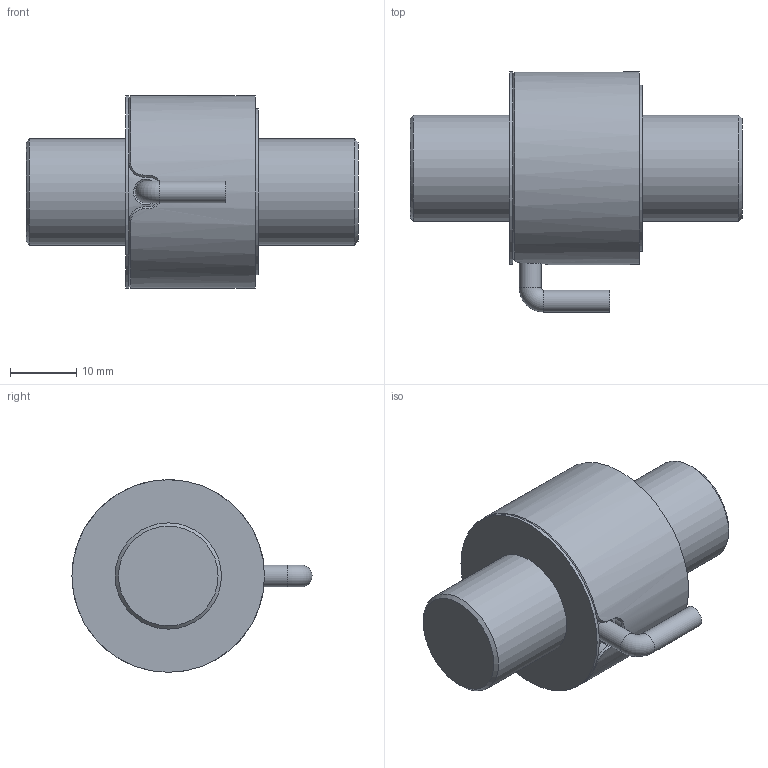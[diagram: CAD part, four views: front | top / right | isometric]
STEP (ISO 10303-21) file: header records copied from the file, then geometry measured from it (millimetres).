
FILE_DESCRIPTION(/* description */ ('Alibre Inc.'),/* implementation_level */ '2;1');
FILE_NAME(/* name */ 'export0',/* time_stamp */ '2015-01-28T08:55:11+01:00',/* author */ (''),/* organization */ (''),/* preprocessor_version */ 'ST-DEVELOPER v14',/* originating_system */ 'Alibre',/* authorisation */ '');
FILE_SCHEMA (('CONFIG_CONTROL_DESIGN'));
Length unit declared in the file: centimetre
Products named in the file (5): ID_1; ID_2; ID_3
Bounding box: 50 x 36.15 x 29 mm (x, y, z)
Volume: 19032.9 mm3; surface area: 8573.1 mm2
Topology: 3 solids, 3 shells, 45 faces, 95 edges, 61 vertices
Faces by surface type: plane 20, cylinder 16, bspline 4, cone 4, torus 1
Full cylindrical faces by diameter (mm): 2 x2, 3.3 x3, 16 x2, 25 x1, 26 x2, 29 x2
Entity records: 2319 total; most frequent: CARTESIAN_POINT 996, DIRECTION 162, ORIENTED_EDGE 140, AXIS2_PLACEMENT_3D 78, EDGE_LOOP 71, FACE_BOUND 71, EDGE_CURVE 70, VERTEX_POINT 53
